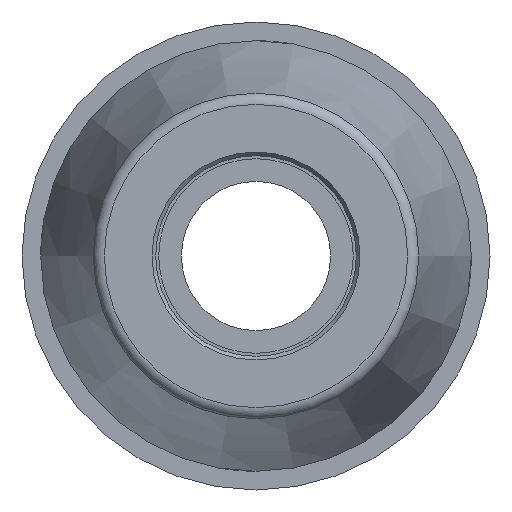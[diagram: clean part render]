
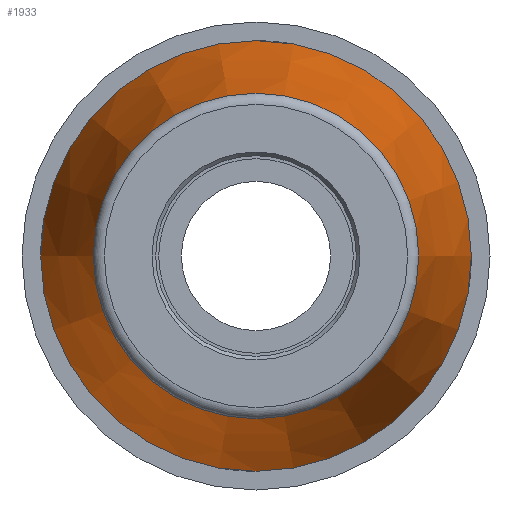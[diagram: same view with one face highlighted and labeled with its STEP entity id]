
A CAD part, left-side view. The second image highlights one B-rep face of the part: STEP entity #1933.
In plain terms, the highlighted conical face has half-angle 13 degrees and reference radius 26.512 mm.
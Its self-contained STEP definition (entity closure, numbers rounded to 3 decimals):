
#144=CONICAL_SURFACE('',#2166,26.512,0.227);
#222=LINE('',#3949,#331);
#331=VECTOR('',#2685,26.512);
#474=FACE_OUTER_BOUND('',#586,.T.);
#586=EDGE_LOOP('',(#1674,#1675,#1676,#1677,#1678,#1679,#1680));
#720=CIRCLE('',#2162,22.951);
#721=CIRCLE('',#2163,22.951);
#723=CIRCLE('',#2165,22.951);
#724=CIRCLE('',#2167,30.36);
#725=CIRCLE('',#2168,30.36);
#909=VERTEX_POINT('',#3937);
#910=VERTEX_POINT('',#3938);
#911=VERTEX_POINT('',#3940);
#912=VERTEX_POINT('',#3945);
#913=VERTEX_POINT('',#3946);
#1179=EDGE_CURVE('',#909,#910,#720,.T.);
#1180=EDGE_CURVE('',#910,#911,#721,.T.);
#1182=EDGE_CURVE('',#911,#909,#723,.T.);
#1183=EDGE_CURVE('',#912,#913,#724,.T.);
#1184=EDGE_CURVE('',#913,#912,#725,.T.);
#1185=EDGE_CURVE('',#913,#910,#222,.T.);
#1674=ORIENTED_EDGE('',*,*,#1183,.F.);
#1675=ORIENTED_EDGE('',*,*,#1184,.F.);
#1676=ORIENTED_EDGE('',*,*,#1185,.T.);
#1677=ORIENTED_EDGE('',*,*,#1179,.F.);
#1678=ORIENTED_EDGE('',*,*,#1182,.F.);
#1679=ORIENTED_EDGE('',*,*,#1180,.F.);
#1680=ORIENTED_EDGE('',*,*,#1185,.F.);
#1933=ADVANCED_FACE('',(#474),#144,.T.);
#2162=AXIS2_PLACEMENT_3D('',#3939,#2671,#2672);
#2163=AXIS2_PLACEMENT_3D('',#3941,#2673,#2674);
#2165=AXIS2_PLACEMENT_3D('',#3943,#2677,#2678);
#2166=AXIS2_PLACEMENT_3D('',#3944,#2679,#2680);
#2167=AXIS2_PLACEMENT_3D('',#3947,#2681,#2682);
#2168=AXIS2_PLACEMENT_3D('',#3948,#2683,#2684);
#2671=DIRECTION('center_axis',(-1.,0.,0.));
#2672=DIRECTION('ref_axis',(0.,-1.,0.));
#2673=DIRECTION('center_axis',(-1.,0.,0.));
#2674=DIRECTION('ref_axis',(0.,-1.,0.));
#2677=DIRECTION('center_axis',(-1.,0.,0.));
#2678=DIRECTION('ref_axis',(0.,-1.,0.));
#2679=DIRECTION('center_axis',(1.,0.,0.));
#2680=DIRECTION('ref_axis',(0.,1.,0.));
#2681=DIRECTION('center_axis',(1.,0.,0.));
#2682=DIRECTION('ref_axis',(0.,0.,-1.));
#2683=DIRECTION('center_axis',(1.,0.,0.));
#2684=DIRECTION('ref_axis',(0.,0.,-1.));
#2685=DIRECTION('',(-0.974,0.225,0.));
#3937=CARTESIAN_POINT('',(-72.26,22.951,0.));
#3938=CARTESIAN_POINT('',(-72.26,-22.951,0.));
#3939=CARTESIAN_POINT('Origin',(-72.26,0.,0.));
#3940=CARTESIAN_POINT('',(-72.26,0.,22.951));
#3941=CARTESIAN_POINT('Origin',(-72.26,0.,0.));
#3943=CARTESIAN_POINT('Origin',(-72.26,0.,0.));
#3944=CARTESIAN_POINT('Origin',(-56.833,0.,0.));
#3945=CARTESIAN_POINT('',(-40.167,30.36,0.));
#3946=CARTESIAN_POINT('',(-40.167,-30.36,0.));
#3947=CARTESIAN_POINT('Origin',(-40.167,0.,0.));
#3948=CARTESIAN_POINT('Origin',(-40.167,0.,0.));
#3949=CARTESIAN_POINT('',(-56.833,-26.512,0.));
